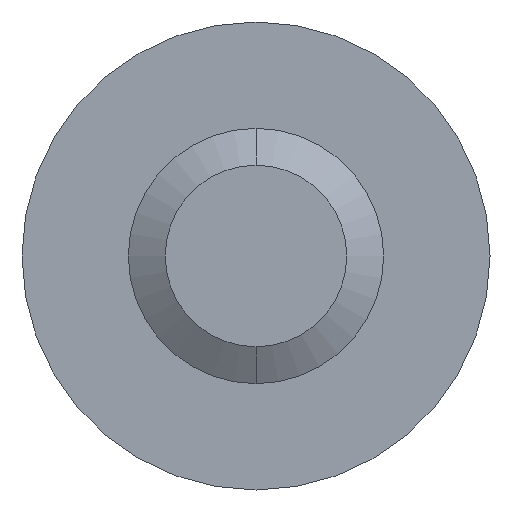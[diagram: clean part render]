
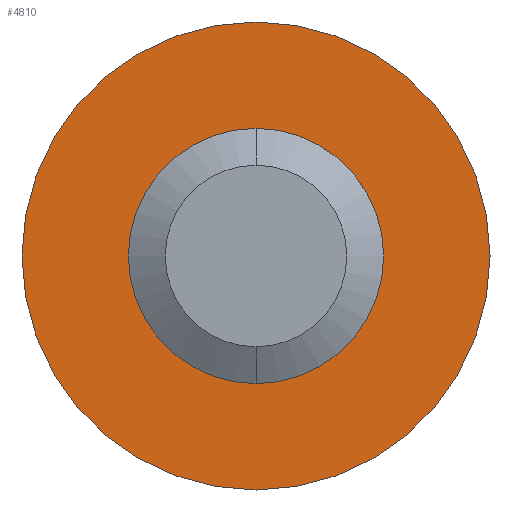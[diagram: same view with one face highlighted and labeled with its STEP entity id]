
A CAD part, front view. The second image highlights one B-rep face of the part: STEP entity #4810.
In plain terms, the highlighted planar face has unit normal (0, -1, 0).
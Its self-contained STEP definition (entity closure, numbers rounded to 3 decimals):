
#227 = CARTESIAN_POINT ( 'NONE',  ( 0., 40., -1.5 ) ) ;
#229 = CIRCLE ( 'NONE', #940, 2.75 ) ;
#332 = EDGE_LOOP ( 'NONE', ( #2638, #4206 ) ) ;
#930 = ORIENTED_EDGE ( 'NONE', *, *, #1854, .T. ) ;
#940 = AXIS2_PLACEMENT_3D ( 'NONE', #7441, #3409, #5414 ) ;
#1051 = DIRECTION ( 'NONE',  ( 0., 0., 1. ) ) ;
#1485 = CARTESIAN_POINT ( 'NONE',  ( 0., 40., 0. ) ) ;
#1538 = VERTEX_POINT ( 'NONE', #227 ) ;
#1571 = DIRECTION ( 'NONE',  ( 0., 1., 0. ) ) ;
#1742 = EDGE_CURVE ( 'NONE', #2649, #3883, #229, .T. ) ;
#1854 = EDGE_CURVE ( 'NONE', #1538, #7543, #5209, .T. ) ;
#1918 = PLANE ( 'NONE',  #5672 ) ;
#2058 = ORIENTED_EDGE ( 'NONE', *, *, #2640, .T. ) ;
#2189 = CARTESIAN_POINT ( 'NONE',  ( 0., 40., 0. ) ) ;
#2498 = AXIS2_PLACEMENT_3D ( 'NONE', #1485, #4196, #7616 ) ;
#2638 = ORIENTED_EDGE ( 'NONE', *, *, #1742, .F. ) ;
#2640 = EDGE_CURVE ( 'NONE', #7543, #1538, #6347, .T. ) ;
#2649 = VERTEX_POINT ( 'NONE', #4567 ) ;
#2675 = CARTESIAN_POINT ( 'NONE',  ( 0., 40., 0. ) ) ;
#2840 = EDGE_LOOP ( 'NONE', ( #930, #2058 ) ) ;
#3409 = DIRECTION ( 'NONE',  ( 0., 1., 0. ) ) ;
#3883 = VERTEX_POINT ( 'NONE', #7851 ) ;
#4196 = DIRECTION ( 'NONE',  ( 0., 1., 0. ) ) ;
#4206 = ORIENTED_EDGE ( 'NONE', *, *, #4277, .F. ) ;
#4239 = DIRECTION ( 'NONE',  ( 0., 0., 1. ) ) ;
#4277 = EDGE_CURVE ( 'NONE', #3883, #2649, #5819, .T. ) ;
#4339 = CARTESIAN_POINT ( 'NONE',  ( 0., 40., 1.5 ) ) ;
#4563 = DIRECTION ( 'NONE',  ( 0., 1., 0. ) ) ;
#4567 = CARTESIAN_POINT ( 'NONE',  ( 0., 40., -2.75 ) ) ;
#4810 = ADVANCED_FACE ( 'NONE', ( #8631, #6729 ), #1918, .F. ) ;
#5209 = CIRCLE ( 'NONE', #2498, 1.5 ) ;
#5414 = DIRECTION ( 'NONE',  ( 0., 0., 1. ) ) ;
#5638 = AXIS2_PLACEMENT_3D ( 'NONE', #7850, #8509, #1051 ) ;
#5672 = AXIS2_PLACEMENT_3D ( 'NONE', #2675, #4563, #8100 ) ;
#5819 = CIRCLE ( 'NONE', #7099, 2.75 ) ;
#6347 = CIRCLE ( 'NONE', #5638, 1.5 ) ;
#6729 = FACE_BOUND ( 'NONE', #2840, .T. ) ;
#7099 = AXIS2_PLACEMENT_3D ( 'NONE', #2189, #1571, #4239 ) ;
#7441 = CARTESIAN_POINT ( 'NONE',  ( 0., 40., 0. ) ) ;
#7543 = VERTEX_POINT ( 'NONE', #4339 ) ;
#7616 = DIRECTION ( 'NONE',  ( 0., 0., 1. ) ) ;
#7850 = CARTESIAN_POINT ( 'NONE',  ( 0., 40., 0. ) ) ;
#7851 = CARTESIAN_POINT ( 'NONE',  ( 0., 40., 2.75 ) ) ;
#8100 = DIRECTION ( 'NONE',  ( 0., 0., 1. ) ) ;
#8509 = DIRECTION ( 'NONE',  ( 0., 1., 0. ) ) ;
#8631 = FACE_OUTER_BOUND ( 'NONE', #332, .T. ) ;
